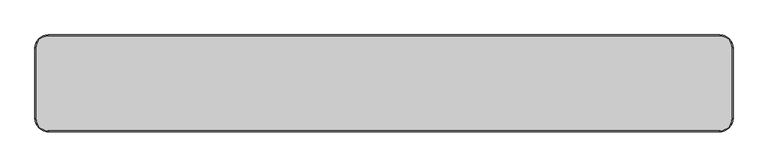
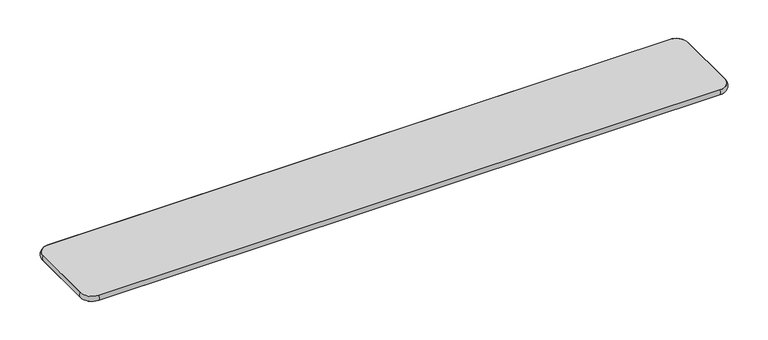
"""IFC4 building model written with IfcOpenShell, lengths in millimetres: furniture geometry, Banco para refeitório : Banco para refeitório 220x30cm cód 40472.6."""

from ifc_helpers import new_model, si_unit, point, frame, frame_2d, origin, place, context, project, spatial, polyline, circle_curve, ellipse_curve, trimmed, segment, composite_curve, outline, extrude, source, transform, mapped, element, save
from ifc_brep_helpers import plane_surface, cylinder_surface, revolved_surface, advanced_brep


def furniture_cf2eff68(model_context):
    return source(origin(), model_context, "Body", "SolidModel", [
        advanced_brep(
        [(1100.0, -110.0, 460.0), (1060.0, -150.0, 460.0), (1060.0, -150.0, 442.0), (1100.0, -110.0, 442.0), (1100.0, 110.0, 442.0), (1100.0, 110.0, 460.0), (1060.0, 150.0, 460.0), (1060.0, 150.0, 442.0), (-1060.0, 150.0, 442.0), (-1060.0, 150.0, 460.0), (-1100.0, 110.0, 460.0), (-1100.0, 110.0, 442.0), (-1100.0, -110.0, 442.0), (-1100.0, -110.0, 460.0), (-1060.0, -150.0, 460.0), (-1060.0, -150.0, 442.0)],
        [
            (0, 1, circle_curve(frame((1060.0, -110.0, 460.0), z_axis=(0.0, 0.0, -1.0), x_axis=(0.0, -1.0, 0.0)), 40.0)),
            (1, 2, circle_curve(frame((1060.0, -136.6032084, 451.0), z_axis=(1.0, 0.0, 0.0), x_axis=(0.0, 1.0, 0.0)), 16.1392077)),
            (2, 3, circle_curve(frame((1060.0, -110.0, 442.0), z_axis=(0.0, 0.0, 1.0), x_axis=(0.0, -1.0, 0.0)), 40.0)),
            (3, 0, circle_curve(frame((1086.6032084, -110.0, 451.0), z_axis=(0.0, -1.0, 0.0), x_axis=(-1.0, 0.0, 0.0)), 16.1392077)),
            (2, 1),
            (0, 3),
            (3, 4),
            (4, 5, circle_curve(frame((1086.6032084, 110.0, 451.0), z_axis=(0.0, -1.0, 0.0), x_axis=(-1.0, 0.0, 0.0)), 16.1392077)),
            (5, 0),
            (5, 4),
            (6, 5, circle_curve(frame((1060.0, 110.0, 460.0), z_axis=(0.0, 0.0, -1.0), x_axis=(1.0, 0.0, 0.0)), 40.0)),
            (4, 7, circle_curve(frame((1060.0, 110.0, 442.0), z_axis=(0.0, 0.0, 1.0), x_axis=(1.0, 0.0, 0.0)), 40.0)),
            (7, 6, circle_curve(frame((1060.0, 136.6032084, 451.0), z_axis=(1.0, 0.0, 0.0), x_axis=(0.0, -1.0, 0.0)), 16.1392077)),
            (6, 7),
            (7, 8),
            (8, 9, circle_curve(frame((-1060.0, 136.6032084, 451.0), z_axis=(1.0, 0.0, 0.0), x_axis=(0.0, -1.0, 0.0)), 16.1392077)),
            (9, 6),
            (9, 8),
            (10, 9, circle_curve(frame((-1060.0, 110.0, 460.0), z_axis=(0.0, 0.0, -1.0), x_axis=(0.0, 1.0, 0.0)), 40.0)),
            (8, 11, circle_curve(frame((-1060.0, 110.0, 442.0), z_axis=(0.0, 0.0, 1.0), x_axis=(0.0, 1.0, 0.0)), 40.0)),
            (11, 10, circle_curve(frame((-1086.6032084, 110.0, 451.0), z_axis=(0.0, 1.0, 0.0), x_axis=(1.0, 0.0, 0.0)), 16.1392077)),
            (10, 11),
            (11, 12),
            (12, 13, circle_curve(frame((-1086.6032084, -110.0, 451.0), z_axis=(0.0, 1.0, 0.0), x_axis=(1.0, 0.0, 0.0)), 16.1392077)),
            (13, 10),
            (13, 12),
            (14, 13, circle_curve(frame((-1060.0, -110.0, 460.0), z_axis=(0.0, 0.0, -1.0), x_axis=(-1.0, 0.0, 0.0)), 40.0)),
            (12, 15, circle_curve(frame((-1060.0, -110.0, 442.0), z_axis=(0.0, 0.0, 1.0), x_axis=(-1.0, 0.0, 0.0)), 40.0)),
            (15, 14, circle_curve(frame((-1060.0, -136.6032084, 451.0), z_axis=(-1.0, 0.0, 0.0), x_axis=(0.0, 1.0, 0.0)), 16.1392077)),
            (14, 15),
            (15, 2),
            (1, 14),
        ],
        [
            revolved_surface(trimmed(ellipse_curve(frame((1060.0, -136.6032084, 451.0), z_axis=(-1.0, 0.0, 0.0), x_axis=(0.0, 1.0, 0.0)), 16.1392077, 16.1392077), [point((1060.0, -150.0, 442.0))], [point((1060.0, -150.0, 460.0))], True, "CARTESIAN"), (1060.0, -110.0, 460.0), (0.0, 0.0, 1.0)),
            revolved_surface(polyline([(1060.0, -150.0, 460.0), (1060.0, -150.0, 442.0)]), (1060.0, -110.0, 460.0), (0.0, 0.0, 1.0)),
            cylinder_surface(frame((1086.6032084, -110.0, 451.0), z_axis=(0.0, -1.0, 0.0), x_axis=(-1.0, 0.0, 0.0)), 16.1392077),
            plane_surface(frame((1100.0, -110.0, 460.0), z_axis=(-1.0, 0.0, 0.0), x_axis=(0.0, 1.0, 0.0))),
            revolved_surface(trimmed(ellipse_curve(frame((1086.6032084, 110.0, 451.0), z_axis=(0.0, -1.0, 0.0), x_axis=(-1.0, 0.0, 0.0)), 16.1392077, 16.1392077), [point((1100.0, 110.0, 442.0))], [point((1100.0, 110.0, 460.0))], True, "CARTESIAN"), (1060.0, 110.0, 460.0), (0.0, 0.0, 1.0)),
            revolved_surface(polyline([(1100.0, 110.0, 460.0), (1100.0, 110.0, 442.0)]), (1060.0, 110.0, 460.0), (0.0, 0.0, 1.0)),
            cylinder_surface(frame((1060.0, 136.6032084, 451.0), z_axis=(1.0, 0.0, 0.0), x_axis=(0.0, -1.0, 0.0)), 16.1392077),
            plane_surface(frame((1060.0, 150.0, 460.0), z_axis=(0.0, -1.0, 0.0), x_axis=(-1.0, 0.0, 0.0))),
            revolved_surface(trimmed(ellipse_curve(frame((-1060.0, 136.6032084, 451.0), z_axis=(1.0, 0.0, 0.0), x_axis=(0.0, -1.0, 0.0)), 16.1392077, 16.1392077), [point((-1060.0, 150.0, 442.0))], [point((-1060.0, 150.0, 460.0))], True, "CARTESIAN"), (-1060.0, 110.0, 460.0), (0.0, 0.0, 1.0)),
            revolved_surface(polyline([(-1060.0, 150.0, 460.0), (-1060.0, 150.0, 442.0)]), (-1060.0, 110.0, 460.0), (0.0, 0.0, 1.0)),
            cylinder_surface(frame((-1086.6032084, 110.0, 451.0), z_axis=(0.0, 1.0, 0.0), x_axis=(1.0, 0.0, 0.0)), 16.1392077),
            plane_surface(frame((-1100.0, 110.0, 460.0), z_axis=(1.0, 0.0, 0.0), x_axis=(0.0, -1.0, 0.0))),
            revolved_surface(trimmed(ellipse_curve(frame((-1086.6032084, -110.0, 451.0), z_axis=(0.0, 1.0, 0.0), x_axis=(1.0, 0.0, 0.0)), 16.1392077, 16.1392077), [point((-1100.0, -110.0, 442.0))], [point((-1100.0, -110.0, 460.0))], True, "CARTESIAN"), (-1060.0, -110.0, 460.0), (0.0, 0.0, 1.0)),
            revolved_surface(polyline([(-1100.0, -110.0, 460.0), (-1100.0, -110.0, 442.0)]), (-1060.0, -110.0, 460.0), (0.0, 0.0, 1.0)),
            cylinder_surface(frame((-1060.0, -136.6032084, 451.0), z_axis=(-1.0, 0.0, 0.0), x_axis=(0.0, 1.0, 0.0)), 16.1392077),
            plane_surface(frame((-1060.0, -150.0, 460.0), z_axis=(0.0, 1.0, 0.0), x_axis=(1.0, 0.0, 0.0))),
        ],
        [
            (0, [[1, 2, 3, 4]]),
            (1, [[-3, 5, -1, 6]]),
            (2, [[-4, 7, 8, 9]]),
            (3, [[-6, -9, 10, -7]]),
            (4, [[11, -8, 12, 13]]),
            (5, [[-12, -10, -11, 14]]),
            (6, [[-13, 15, 16, 17]]),
            (7, [[-14, -17, 18, -15]]),
            (8, [[19, -16, 20, 21]]),
            (9, [[-20, -18, -19, 22]]),
            (10, [[-21, 23, 24, 25]]),
            (11, [[-22, -25, 26, -23]]),
            (12, [[27, -24, 28, 29]]),
            (13, [[-28, -26, -27, 30]]),
            (14, [[-29, 31, -2, 32]]),
            (15, [[-30, -32, -5, -31]]),
        ],
    ),
        extrude(outline(composite_curve([segment(trimmed(circle_curve(frame_2d((1060.0, 110.0)), 40.0), [point((1060.0, 150.0))], [point((1100.0, 110.0))], False, "CARTESIAN"), True, "CONTINUOUS"), segment(polyline([(1100.0, 110.0), (1100.0, -110.0)]), True, "CONTINUOUS"), segment(trimmed(circle_curve(frame_2d((1060.0, -110.0)), 40.0), [point((1100.0, -110.0))], [point((1060.0, -150.0))], False, "CARTESIAN"), True, "CONTINUOUS"), segment(polyline([(1060.0, -150.0), (-1060.0, -150.0)]), True, "CONTINUOUS"), segment(trimmed(circle_curve(frame_2d((-1060.0, -110.0)), 40.0), [point((-1060.0, -150.0))], [point((-1100.0, -110.0))], False, "CARTESIAN"), True, "CONTINUOUS"), segment(polyline([(-1100.0, -110.0), (-1100.0, 110.0)]), True, "CONTINUOUS"), segment(trimmed(circle_curve(frame_2d((-1060.0, 110.0)), 40.0), [point((-1100.0, 110.0))], [point((-1060.0, 150.0))], False, "CARTESIAN"), True, "CONTINUOUS"), segment(polyline([(-1060.0, 150.0), (1060.0, 150.0)]), True, "CONTINUOUS")], self_intersect=False)), frame((0.0, 0.0, 442.0), z_axis=(0.0, 0.0, 1.0), x_axis=(1.0, 0.0, 0.0)), (0.0, 0.0, 1.0), 18.0),
    ])


if __name__ == "__main__":
    model = new_model("IFC4")
    model_context = context("Model", 3, world=origin())
    ifc_project = project(units=[si_unit("LENGTHUNIT", "METRE", prefix="MILLI")], contexts=[model_context])
    site = spatial("IfcSite", under=ifc_project)
    building = spatial("IfcBuilding", under=site)
    placement = place(None, origin())
    furniture_shape = furniture_cf2eff68(model_context)
    element("IfcFurniture", 1, ObjectType="Banco para refeitório : Banco para refeitório 220x30cm cód 40472.6", at=placement, inside=building, context=model_context, shape_type="MappedRepresentation", body=[
        mapped(furniture_shape, transform((0.0, 0.0, 0.0), x_axis=(1.0, 0.0, 0.0), y_axis=(0.0, 1.0, 0.0), z_axis=(0.0, 0.0, 1.0))),
    ])
    save(model, "model.ifc")
